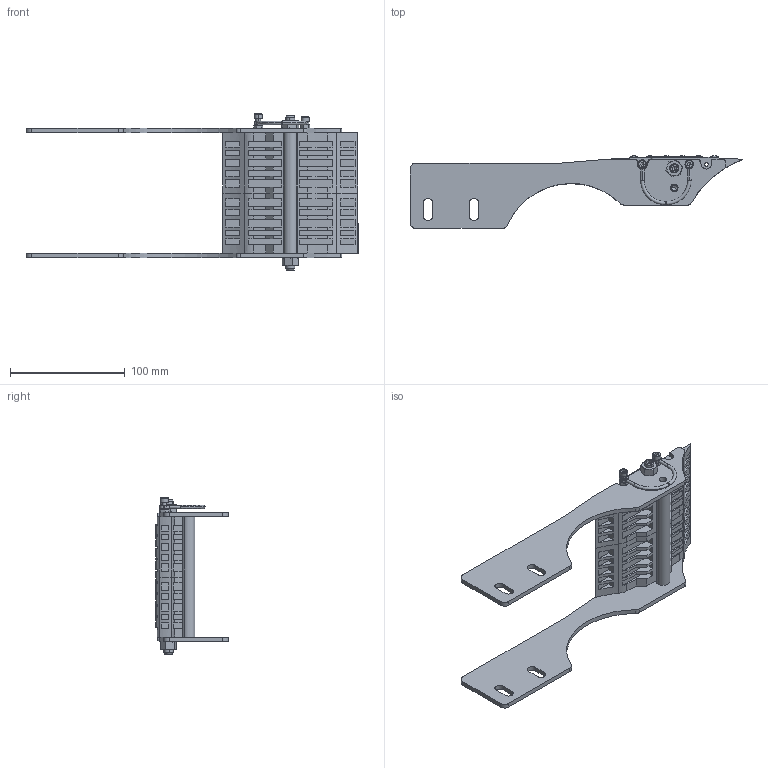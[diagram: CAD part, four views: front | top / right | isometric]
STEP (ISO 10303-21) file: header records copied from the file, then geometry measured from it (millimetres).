
FILE_DESCRIPTION (( 'STEP AP214' ), '1' );
FILE_NAME ('FCTB A105.step', '2017-04-07T11:06:44', ( '' ), ( '' ), 'SwSTEP 2.0', 'SolidWorks 2016', '' );
FILE_SCHEMA (( 'AUTOMOTIVE_DESIGN' ));
Length unit declared in the file: millimetre
Products named in the file (1): FCTB A105
Bounding box: 289.89 x 63.54 x 136.77 mm (x, y, z)
Surface area: 141124.7 mm2 (no closed solid volume)
Topology: 0 solids, 77 shells, 2320 faces, 5934 edges, 3880 vertices
Faces by surface type: plane 886, torus 668, cylinder 642, cone 108, bspline 12, sphere 4
Entity records: 106280 total; most frequent: CARTESIAN_POINT 21391, DIRECTION 13302, ORIENTED_EDGE 11816, EDGE_CURVE 5910, AXIS2_PLACEMENT_3D 5571, VERTEX_POINT 3880, CIRCLE 3262, EDGE_LOOP 2632
